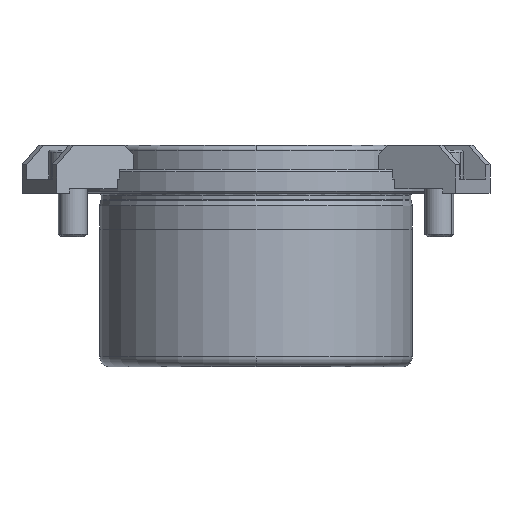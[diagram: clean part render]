
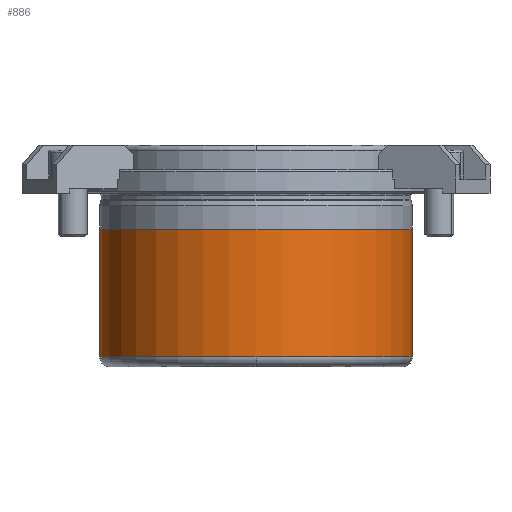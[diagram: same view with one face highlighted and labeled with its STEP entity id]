
A CAD part, front view. The second image highlights one B-rep face of the part: STEP entity #886.
In plain terms, the highlighted cylindrical face has radius 32.494 mm (diameter 64.988 mm), a partial arc.
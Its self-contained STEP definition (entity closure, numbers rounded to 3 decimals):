
#836=CARTESIAN_POINT('',(0.0,0.,-20.7));
#837=DIRECTION('',(0.0,0.,1.0));
#838=DIRECTION('',(1.0,0.0,0.0));
#839=AXIS2_PLACEMENT_3D('',#836,#837,#838);
#840=CYLINDRICAL_SURFACE('',#839,32.494);
#841=CARTESIAN_POINT('',(32.494,0.,-7.4));
#842=VERTEX_POINT('',#841);
#843=CARTESIAN_POINT('',(32.494,0.,-34.0));
#844=VERTEX_POINT('',#843);
#845=CARTESIAN_POINT('',(32.494,0.,-7.4));
#846=DIRECTION('',(0.0,0.0,-1.0));
#847=VECTOR('',#846,26.6);
#848=LINE('',#845,#847);
#849=EDGE_CURVE('',#842,#844,#848,.T.);
#850=ORIENTED_EDGE('',*,*,#849,.F.);
#851=CARTESIAN_POINT('',(-32.494,0.,-7.4));
#852=VERTEX_POINT('',#851);
#853=CARTESIAN_POINT('',(0.0,0.,-7.4));
#854=DIRECTION('',(0.0,0.0,1.0));
#855=DIRECTION('',(1.0,0.0,0.0));
#856=AXIS2_PLACEMENT_3D('',#853,#854,#855);
#857=CIRCLE('',#856,32.494);
#858=EDGE_CURVE('',#852,#842,#857,.T.);
#859=ORIENTED_EDGE('',*,*,#858,.F.);
#860=CARTESIAN_POINT('',(-32.494,0.,-34.0));
#861=VERTEX_POINT('',#860);
#862=CARTESIAN_POINT('',(-32.494,0.,-7.4));
#863=DIRECTION('',(0.0,0.0,-1.0));
#864=VECTOR('',#863,26.6);
#865=LINE('',#862,#864);
#866=EDGE_CURVE('',#852,#861,#865,.T.);
#867=ORIENTED_EDGE('',*,*,#866,.T.);
#868=CARTESIAN_POINT('',(0.0,-32.494,-34.));
#869=VERTEX_POINT('',#868);
#870=CARTESIAN_POINT('',(0.0,0.,-34.0));
#871=DIRECTION('',(0.0,0.0,1.0));
#872=DIRECTION('',(1.0,0.0,0.0));
#873=AXIS2_PLACEMENT_3D('',#870,#871,#872);
#874=CIRCLE('',#873,32.494);
#875=EDGE_CURVE('',#861,#869,#874,.T.);
#876=ORIENTED_EDGE('',*,*,#875,.T.);
#877=CARTESIAN_POINT('',(0.0,0.,-34.0));
#878=DIRECTION('',(0.0,0.0,1.0));
#879=DIRECTION('',(1.0,0.0,0.0));
#880=AXIS2_PLACEMENT_3D('',#877,#878,#879);
#881=CIRCLE('',#880,32.494);
#882=EDGE_CURVE('',#869,#844,#881,.T.);
#883=ORIENTED_EDGE('',*,*,#882,.T.);
#884=EDGE_LOOP('',(#850,#859,#867,#876,#883));
#885=FACE_OUTER_BOUND('',#884,.T.);
#886=ADVANCED_FACE('',(#885),#840,.T.);
